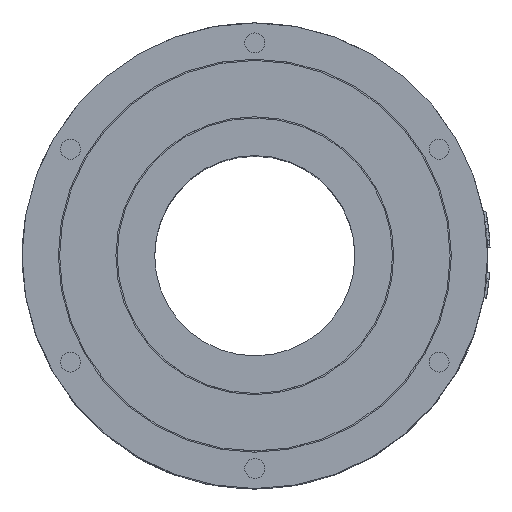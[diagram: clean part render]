
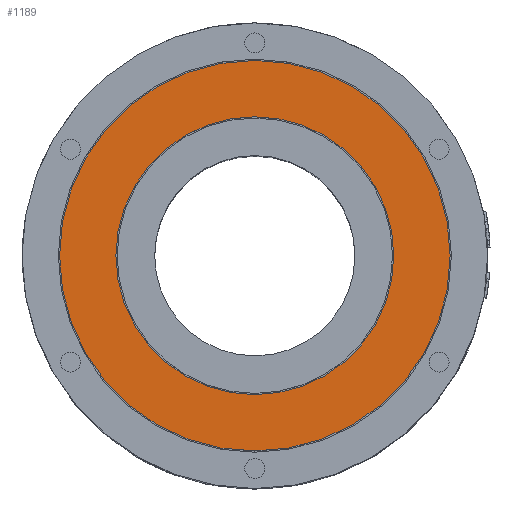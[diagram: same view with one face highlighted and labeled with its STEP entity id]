
A CAD part, top view. The second image highlights one B-rep face of the part: STEP entity #1189.
In plain terms, the highlighted planar face has unit normal (0, 0, 1).
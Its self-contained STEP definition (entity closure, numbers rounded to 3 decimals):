
#209=FACE_BOUND('',#2276,.T.);
#210=FACE_BOUND('',#2277,.T.);
#434=CIRCLE('',#6901,39.);
#435=CIRCLE('',#6903,27.75);
#750=PLANE('',#6904);
#1189=ADVANCED_FACE('',(#209,#210),#750,.F.);
#2276=EDGE_LOOP('',(#3806));
#2277=EDGE_LOOP('',(#3807));
#3806=ORIENTED_EDGE('',*,*,#5781,.F.);
#3807=ORIENTED_EDGE('',*,*,#5780,.T.);
#4884=VERTEX_POINT('',#26272);
#4885=VERTEX_POINT('',#26275);
#5780=EDGE_CURVE('',#4884,#4884,#434,.T.);
#5781=EDGE_CURVE('',#4885,#4885,#435,.T.);
#6901=AXIS2_PLACEMENT_3D('',#26271,#7917,#7918);
#6903=AXIS2_PLACEMENT_3D('',#26274,#7921,#7922);
#6904=AXIS2_PLACEMENT_3D('',#26276,#7923,#7924);
#7917=DIRECTION('',(0.,0.,1.));
#7918=DIRECTION('',(1.,0.,0.));
#7921=DIRECTION('',(0.,0.,1.));
#7922=DIRECTION('',(-1.,0.,0.));
#7923=DIRECTION('',(0.,0.,-1.));
#7924=DIRECTION('',(1.,0.,0.));
#26271=CARTESIAN_POINT('',(0.,0.,89.));
#26272=CARTESIAN_POINT('',(39.,0.,89.));
#26274=CARTESIAN_POINT('',(0.,0.,89.));
#26275=CARTESIAN_POINT('',(-27.75,0.,89.));
#26276=CARTESIAN_POINT('',(0.,0.,89.));
